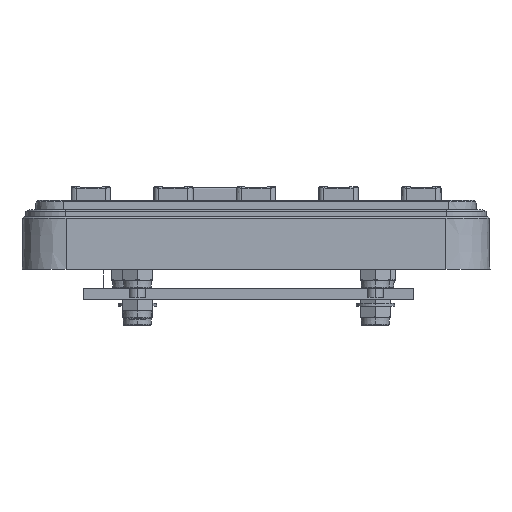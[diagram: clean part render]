
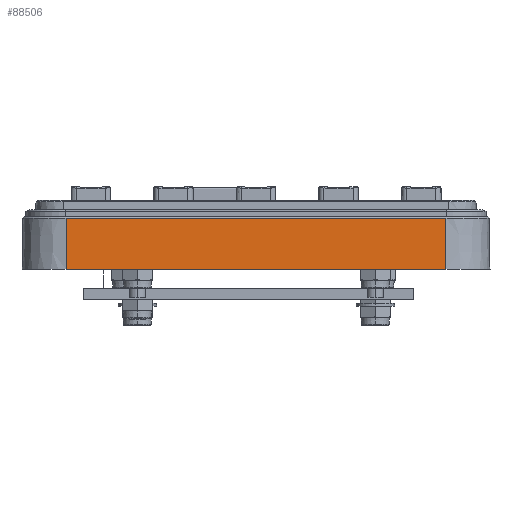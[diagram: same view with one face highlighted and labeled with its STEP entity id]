
A CAD part, left-side view. The second image highlights one B-rep face of the part: STEP entity #88506.
In plain terms, the highlighted planar face has unit normal (-1, 0, 0.018).
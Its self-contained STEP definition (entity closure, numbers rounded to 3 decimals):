
#10180 = CARTESIAN_POINT ( 'NONE',  ( -107.211, 62.052, 3.05 ) ) ;
#20455 = VERTEX_POINT ( 'NONE', #97080 ) ;
#29166 = CARTESIAN_POINT ( 'NONE',  ( -107.211, -6.948, 3.05 ) ) ;
#41215 = VECTOR ( 'NONE', #114918, 1000. ) ;
#43084 = VERTEX_POINT ( 'NONE', #97555 ) ;
#44626 = CARTESIAN_POINT ( 'NONE',  ( -107.374, 62.052, -6.25 ) ) ;
#46363 = VERTEX_POINT ( 'NONE', #29166 ) ;
#47988 = VECTOR ( 'NONE', #117983, 1000. ) ;
#51781 = FACE_OUTER_BOUND ( 'NONE', #107573, .T. ) ;
#56839 = DIRECTION ( 'NONE',  ( 0.017, 0., 1. ) ) ;
#60155 = VECTOR ( 'NONE', #95670, 1000. ) ;
#66900 = EDGE_CURVE ( 'NONE', #20455, #80652, #80366, .T. ) ;
#68068 = CARTESIAN_POINT ( 'NONE',  ( -107.374, -6.948, -6.25 ) ) ;
#68323 = AXIS2_PLACEMENT_3D ( 'NONE', #44626, #129841, #56839 ) ;
#69576 = ORIENTED_EDGE ( 'NONE', *, *, #103508, .T. ) ;
#72407 = ORIENTED_EDGE ( 'NONE', *, *, #115107, .F. ) ;
#73582 = LINE ( 'NONE', #68068, #41215 ) ;
#80366 = LINE ( 'NONE', #154173, #47988 ) ;
#80652 = VERTEX_POINT ( 'NONE', #148157 ) ;
#88506 = ADVANCED_FACE ( 'NONE', ( #51781 ), #129333, .T. ) ;
#92242 = EDGE_CURVE ( 'NONE', #46363, #20455, #157299, .T. ) ;
#92323 = LINE ( 'NONE', #104964, #124773 ) ;
#95670 = DIRECTION ( 'NONE',  ( 0., 1., 0. ) ) ;
#97080 = CARTESIAN_POINT ( 'NONE',  ( -107.211, 62.052, 3.05 ) ) ;
#97555 = CARTESIAN_POINT ( 'NONE',  ( -107.374, -6.948, -6.25 ) ) ;
#103508 = EDGE_CURVE ( 'NONE', #80652, #43084, #92323, .T. ) ;
#104964 = CARTESIAN_POINT ( 'NONE',  ( -107.374, 62.052, -6.25 ) ) ;
#107573 = EDGE_LOOP ( 'NONE', ( #72407, #119158, #126827, #69576 ) ) ;
#114918 = DIRECTION ( 'NONE',  ( -0.017, 0., -1. ) ) ;
#115107 = EDGE_CURVE ( 'NONE', #46363, #43084, #73582, .T. ) ;
#117983 = DIRECTION ( 'NONE',  ( -0.017, 0., -1. ) ) ;
#119158 = ORIENTED_EDGE ( 'NONE', *, *, #92242, .T. ) ;
#124773 = VECTOR ( 'NONE', #128972, 1000. ) ;
#126827 = ORIENTED_EDGE ( 'NONE', *, *, #66900, .T. ) ;
#128972 = DIRECTION ( 'NONE',  ( 0., -1., 0. ) ) ;
#129333 = PLANE ( 'NONE',  #68323 ) ;
#129841 = DIRECTION ( 'NONE',  ( -1., 0., 0.017 ) ) ;
#148157 = CARTESIAN_POINT ( 'NONE',  ( -107.374, 62.052, -6.25 ) ) ;
#154173 = CARTESIAN_POINT ( 'NONE',  ( -107.374, 62.052, -6.25 ) ) ;
#157299 = LINE ( 'NONE', #10180, #60155 ) ;
